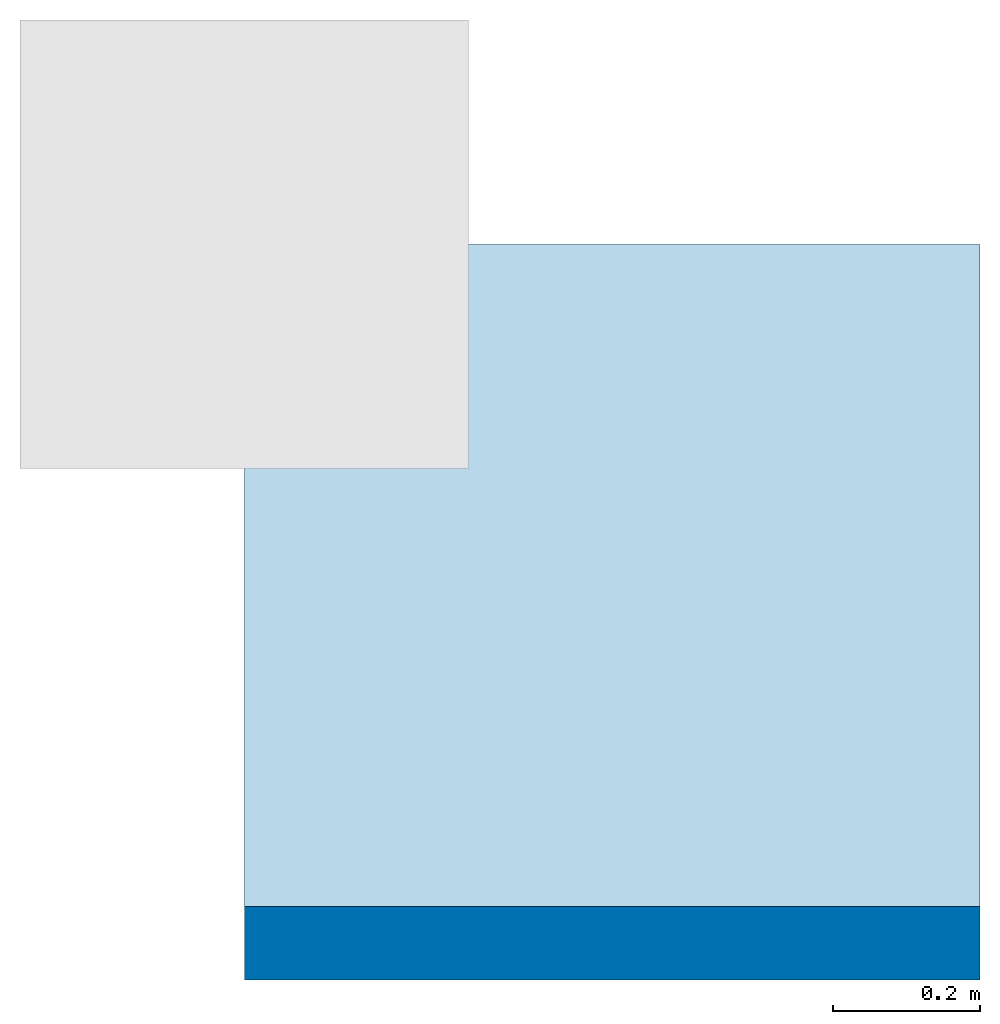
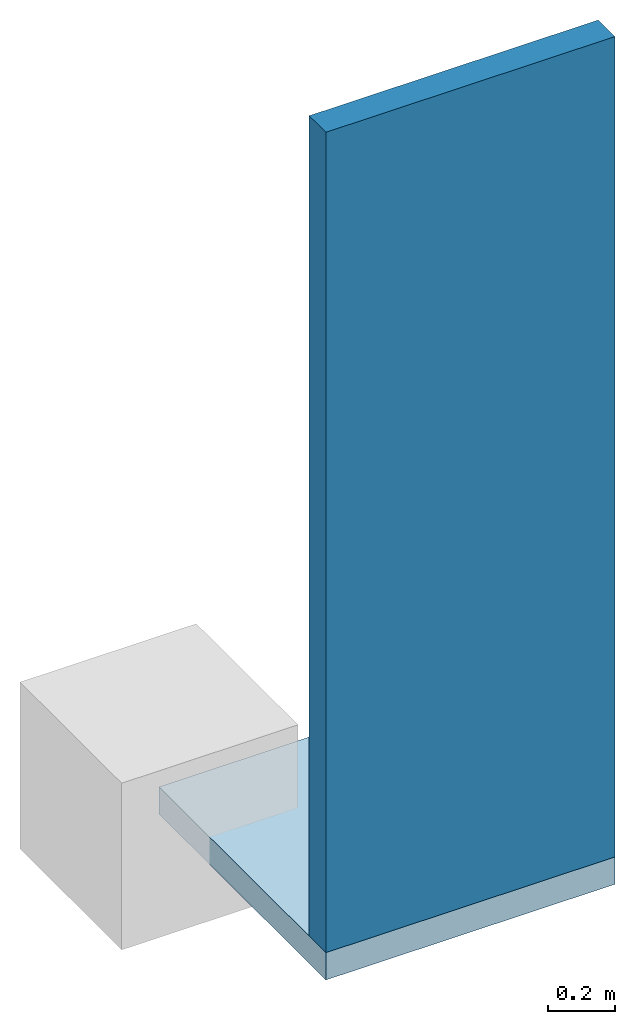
# One storey, part 1 of 2: 1 slab, 1 wall.
"""IFC4 building model written with IfcOpenShell, lengths in feet."""

from ifc_helpers import new_model, entity, si_unit, converted_unit, frame, origin_with_axes, origin_2d_with_axis, place, context, subcontext, project, spatial, indexed_curve, outline, extrude, material, layer, layer_set, layer_usage, type_object, element, save


model = new_model("IFC4")

# Units and contexts
model_context = context("Model", 3, precision=1e-05, world=origin_with_axes())
plan_context = context("Plan", 2, precision=1e-05, world=origin_2d_with_axis())
body_context = subcontext(model_context, "Body", "Model", "MODEL_VIEW")
ifc_project = project(units=[converted_unit("LENGTHUNIT", "foot", entity("IfcReal", 0.3048), si_unit("LENGTHUNIT", "METRE"), dimensions=[1, 0, 0, 0, 0, 0, 0]), converted_unit("VOLUMEUNIT", "cubic foot", entity("IfcReal", 0.0283168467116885), si_unit("VOLUMEUNIT", "CUBIC_METRE"), dimensions=[3, 0, 0, 0, 0, 0, 0]), converted_unit("PLANEANGLEUNIT", "degree", entity("IfcReal", 0.0174532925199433), si_unit("PLANEANGLEUNIT", "RADIAN"), dimensions=[0, 0, 0, 0, 0, 0, 0]), converted_unit("AREAUNIT", "square foot", entity("IfcReal", 0.09290304), si_unit("AREAUNIT", "SQUARE_METRE"), dimensions=[2, 0, 0, 0, 0, 0, 0])], contexts=[model_context, plan_context])

# Site, building, storey
site_placement = place(None, origin_with_axes())
site = spatial("IfcSite", under=ifc_project, at=site_placement, Name="My Site")
building_placement = place(site_placement, origin_with_axes())
building = spatial("IfcBuilding", under=site, at=building_placement, Name="My Building")
storey_placement = place(building_placement, origin_with_axes())
storey = spatial("IfcBuildingStorey", under=building, at=storey_placement, Name="My Storey")

# Slab
ifc_material = material(Name="Test Material")
ifc_layer_1 = layer(ifc_material, 0.328083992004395)
ifc_layer_set_1 = layer_set([ifc_layer_1])
ifc_layer_usage_1 = layer_usage(ifc_layer_set_1, "AXIS3", "POSITIVE", 0.0)
slab_type = type_object("IfcSlabType", Name="TYPEX", PredefinedType="FLOOR", material=ifc_layer_set_1)
slab_placement = place(storey_placement, frame((0.0, 0.0, -0.328083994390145), z_axis=(0.0, 0.0, 1.0), x_axis=(1.0, 0.0, 0.0)))
element("IfcSlab", 1, at=slab_placement, inside=storey, type_object=slab_type, material=ifc_layer_usage_1, Name="Slab", context=body_context, shape_type="SweptSolid", body=[
    extrude(outline(indexed_curve([(0.0, 0.0), (3.28083989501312, 0.0), (3.28083989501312, 3.28083989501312), (0.0, 3.28083989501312), (0.0, 0.0)])), None, (0.0, 0.0, 1.0), 0.328083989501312),
])

# Wall
ifc_layer_2 = layer(ifc_material, 0.328083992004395)
ifc_layer_set_2 = layer_set([ifc_layer_2])
ifc_layer_usage_2 = layer_usage(ifc_layer_set_2, "AXIS2", "POSITIVE", 0.0)
wall_type = type_object("IfcWallType", Name="TYPEX", PredefinedType="SOLIDWALL", material=ifc_layer_set_2)
wall_placement = place(storey_placement, origin_with_axes())
element("IfcWall", 2, at=wall_placement, inside=storey, type_object=wall_type, material=ifc_layer_usage_2, Name="Wall", context=body_context, shape_type="SweptSolid", body=[
    extrude(outline(indexed_curve([(0.0, 0.0), (0.0, 0.328083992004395), (3.28083989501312, 0.328083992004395), (3.28083989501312, 0.0), (0.0, 0.0)], self_intersect=False)), origin_with_axes(), (0.0, 0.0, 1.0), 9.84251968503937),
])

save(model, "model.ifc")
